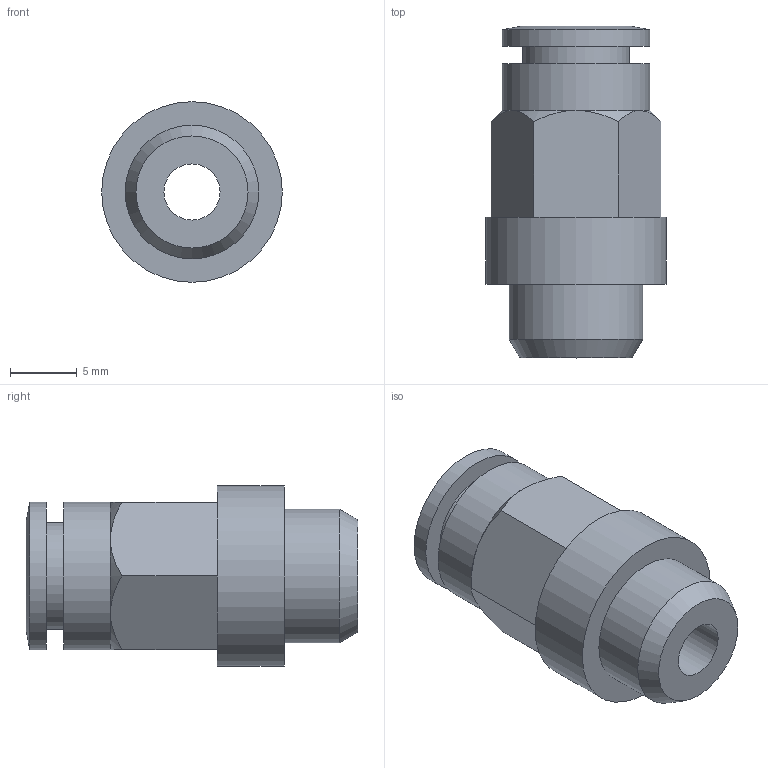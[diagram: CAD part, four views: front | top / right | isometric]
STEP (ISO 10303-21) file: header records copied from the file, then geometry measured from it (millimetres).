
FILE_DESCRIPTION((''),'2;1');
FILE_NAME('C:\Documents and Settings\rivolro1\Documenti\copia di Raccordi\T01XXXX\T010618.stp','2007-10-30T15:14:12',('Rivolro1'),(''),'Autodesk Inventor 2008','Autodesk Inventor 2008','');
FILE_SCHEMA(('AUTOMOTIVE_DESIGN { 1 0 10303 214 1 1 1 1 }'));
Length unit declared in the file: millimetre
Products named in the file (1): T010618
Bounding box: 13.5 x 24.8 x 13.5 mm (x, y, z)
Volume: 1874.7 mm3; surface area: 1643 mm2
Topology: 1 solids, 1 shells, 28 faces, 55 edges, 34 vertices
Faces by surface type: plane 13, cone 8, cylinder 6, bspline 1
Full cylindrical faces by diameter (mm): 6.2 x1, 8 x1, 10 x1, 11 x2, 13.5 x1
Entity records: 709 total; most frequent: CARTESIAN_POINT 148, DIRECTION 110, ORIENTED_EDGE 90, AXIS2_PLACEMENT_3D 49, EDGE_CURVE 45, EDGE_LOOP 44, VERTEX_POINT 33, FACE_OUTER_BOUND 28
